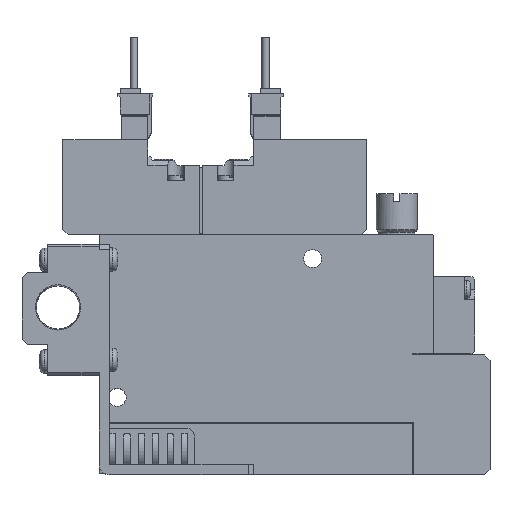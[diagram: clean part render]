
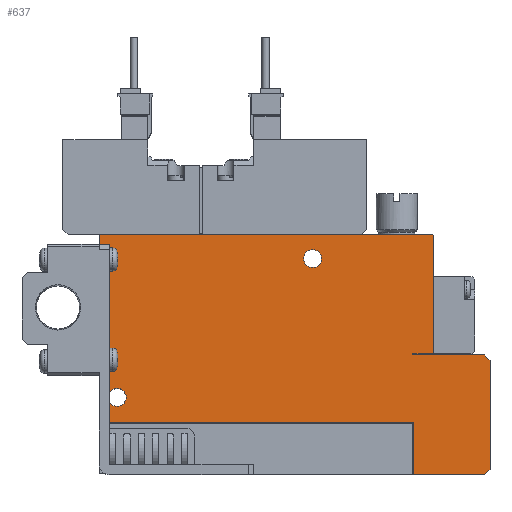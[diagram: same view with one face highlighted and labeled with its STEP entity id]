
A CAD part, top view. The second image highlights one B-rep face of the part: STEP entity #637.
In plain terms, the highlighted planar face has unit normal (0, 0, 1).
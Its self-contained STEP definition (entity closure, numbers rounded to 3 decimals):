
#637=ADVANCED_FACE('',(#1516,#1517,#1518),#1519,.F.);
#1516=FACE_OUTER_BOUND('',#2768,.T.);
#1517=FACE_BOUND('',#2769,.T.);
#1518=FACE_BOUND('',#2770,.T.);
#1519=PLANE('',#2771);
#2768=EDGE_LOOP('',(#5718,#5719,#5720,#5721,#5722,#5723,#5724,#5725,#5726,#5727,#5728,#5729,#5730,#5731));
#2769=EDGE_LOOP('',(#5732));
#2770=EDGE_LOOP('',(#5733));
#2771=AXIS2_PLACEMENT_3D('',#5734,#5735,#5736);
#5718=ORIENTED_EDGE('',*,*,#8769,.T.);
#5719=ORIENTED_EDGE('',*,*,#8770,.F.);
#5720=ORIENTED_EDGE('',*,*,#8771,.F.);
#5721=ORIENTED_EDGE('',*,*,#8683,.T.);
#5722=ORIENTED_EDGE('',*,*,#8772,.T.);
#5723=ORIENTED_EDGE('',*,*,#8773,.T.);
#5724=ORIENTED_EDGE('',*,*,#8774,.T.);
#5725=ORIENTED_EDGE('',*,*,#8775,.T.);
#5726=ORIENTED_EDGE('',*,*,#8776,.T.);
#5727=ORIENTED_EDGE('',*,*,#8758,.T.);
#5728=ORIENTED_EDGE('',*,*,#8777,.T.);
#5729=ORIENTED_EDGE('',*,*,#8778,.T.);
#5730=ORIENTED_EDGE('',*,*,#8779,.T.);
#5731=ORIENTED_EDGE('',*,*,#8780,.T.);
#5732=ORIENTED_EDGE('',*,*,#8781,.F.);
#5733=ORIENTED_EDGE('',*,*,#8782,.F.);
#5734=CARTESIAN_POINT('',(0.0,0.0,5.0));
#5735=DIRECTION('',(0.0,0.0,-1.0));
#5736=DIRECTION('',(0.0,-1.0,0.0));
#8683=EDGE_CURVE('',#10587,#10591,#10593,.T.);
#8758=EDGE_CURVE('',#10740,#10738,#10741,.T.);
#8769=EDGE_CURVE('',#10760,#10761,#10762,.T.);
#8770=EDGE_CURVE('',#10763,#10761,#10764,.T.);
#8771=EDGE_CURVE('',#10587,#10763,#10765,.T.);
#8772=EDGE_CURVE('',#10591,#10766,#10767,.T.);
#8773=EDGE_CURVE('',#10766,#10768,#10769,.T.);
#8774=EDGE_CURVE('',#10768,#10770,#10771,.T.);
#8775=EDGE_CURVE('',#10770,#10772,#10773,.T.);
#8776=EDGE_CURVE('',#10772,#10740,#10774,.T.);
#8777=EDGE_CURVE('',#10738,#10775,#10776,.T.);
#8778=EDGE_CURVE('',#10775,#10777,#10778,.T.);
#8779=EDGE_CURVE('',#10777,#10779,#10780,.T.);
#8780=EDGE_CURVE('',#10779,#10760,#10781,.T.);
#8781=EDGE_CURVE('',#10782,#10782,#10783,.T.);
#8782=EDGE_CURVE('',#10784,#10784,#10785,.T.);
#10587=VERTEX_POINT('',#13690);
#10591=VERTEX_POINT('',#13696);
#10593=LINE('',#13699,#13700);
#10738=VERTEX_POINT('',#13933);
#10740=VERTEX_POINT('',#13936);
#10741=LINE('',#13937,#13938);
#10760=VERTEX_POINT('',#13981);
#10761=VERTEX_POINT('',#13982);
#10762=LINE('',#13983,#13984);
#10763=VERTEX_POINT('',#13985);
#10764=LINE('',#13986,#13987);
#10765=LINE('',#13988,#13989);
#10766=VERTEX_POINT('',#13990);
#10767=LINE('',#13991,#13992);
#10768=VERTEX_POINT('',#13993);
#10769=LINE('',#13994,#13995);
#10770=VERTEX_POINT('',#13996);
#10771=LINE('',#13997,#13998);
#10772=VERTEX_POINT('',#13999);
#10773=LINE('',#14000,#14001);
#10774=LINE('',#14002,#14003);
#10775=VERTEX_POINT('',#14004);
#10776=LINE('',#14005,#14006);
#10777=VERTEX_POINT('',#14007);
#10778=LINE('',#14008,#14009);
#10779=VERTEX_POINT('',#14010);
#10780=LINE('',#14011,#14012);
#10781=LINE('',#14013,#14014);
#10782=VERTEX_POINT('',#14015);
#10783=CIRCLE('',#14016,1.75);
#10784=VERTEX_POINT('',#14017);
#10785=CIRCLE('',#14018,1.75);
#13690=CARTESIAN_POINT('',(61.1,0.0,5.0));
#13696=CARTESIAN_POINT('',(75.0,0.0,5.0));
#13699=CARTESIAN_POINT('',(0.0,0.0,5.0));
#13700=VECTOR('',#17048,1.0);
#13933=CARTESIAN_POINT('',(65.0,23.5,5.0));
#13936=CARTESIAN_POINT('',(61.0,23.5,5.0));
#13937=CARTESIAN_POINT('',(61.0,23.5,5.0));
#13938=VECTOR('',#17157,1.0);
#13981=CARTESIAN_POINT('',(0.0,46.4,5.0));
#13982=CARTESIAN_POINT('',(0.0,10.1,5.0));
#13983=CARTESIAN_POINT('',(0.0,46.4,5.0));
#13984=VECTOR('',#17172,1.0);
#13985=CARTESIAN_POINT('',(61.1,10.1,5.0));
#13986=CARTESIAN_POINT('',(61.1,10.1,5.0));
#13987=VECTOR('',#17173,1.0);
#13988=CARTESIAN_POINT('',(61.1,0.0,5.0));
#13989=VECTOR('',#17174,1.0);
#13990=CARTESIAN_POINT('',(76.0,1.0,5.0));
#13991=CARTESIAN_POINT('',(75.0,0.0,5.0));
#13992=VECTOR('',#17175,1.0);
#13993=CARTESIAN_POINT('',(76.0,22.25,5.0));
#13994=CARTESIAN_POINT('',(76.0,1.0,5.0));
#13995=VECTOR('',#17176,1.0);
#13996=CARTESIAN_POINT('',(75.0,23.25,5.0));
#13997=CARTESIAN_POINT('',(76.0,22.25,5.0));
#13998=VECTOR('',#17177,1.0);
#13999=CARTESIAN_POINT('',(61.0,23.25,5.0));
#14000=CARTESIAN_POINT('',(75.0,23.25,5.0));
#14001=VECTOR('',#17178,1.0);
#14002=CARTESIAN_POINT('',(61.0,23.25,5.0));
#14003=VECTOR('',#17179,1.0);
#14004=CARTESIAN_POINT('',(65.0,46.4,5.0));
#14005=CARTESIAN_POINT('',(65.0,23.5,5.0));
#14006=VECTOR('',#17180,1.0);
#14007=CARTESIAN_POINT('',(64.8,46.6,5.0));
#14008=CARTESIAN_POINT('',(65.0,46.4,5.0));
#14009=VECTOR('',#17181,1.0);
#14010=CARTESIAN_POINT('',(0.2,46.6,5.0));
#14011=CARTESIAN_POINT('',(64.8,46.6,5.0));
#14012=VECTOR('',#17182,1.0);
#14013=CARTESIAN_POINT('',(0.2,46.6,5.0));
#14014=VECTOR('',#17183,1.0);
#14015=CARTESIAN_POINT('',(5.25,15.0,5.0));
#14016=AXIS2_PLACEMENT_3D('',#17184,#17185,#17186);
#14017=CARTESIAN_POINT('',(43.25,42.0,5.0));
#14018=AXIS2_PLACEMENT_3D('',#17187,#17188,#17189);
#17048=DIRECTION('',(1.0,0.0,0.0));
#17157=DIRECTION('',(1.0,0.,0.0));
#17172=DIRECTION('',(0.0,-1.0,0.0));
#17173=DIRECTION('',(-1.0,0.0,0.0));
#17174=DIRECTION('',(0.0,1.0,0.0));
#17175=DIRECTION('',(0.707,0.707,0.0));
#17176=DIRECTION('',(0.0,1.0,0.0));
#17177=DIRECTION('',(-0.707,0.707,0.0));
#17178=DIRECTION('',(-1.0,0.0,0.0));
#17179=DIRECTION('',(0.0,1.0,0.0));
#17180=DIRECTION('',(0.0,1.0,0.0));
#17181=DIRECTION('',(-0.707,0.707,0.0));
#17182=DIRECTION('',(-1.0,0.0,0.0));
#17183=DIRECTION('',(-0.707,-0.707,0.0));
#17184=CARTESIAN_POINT('',(3.5,15.0,5.0));
#17185=DIRECTION('',(0.0,0.0,1.0));
#17186=DIRECTION('',(1.0,0.0,0.0));
#17187=CARTESIAN_POINT('',(41.5,42.0,5.0));
#17188=DIRECTION('',(0.0,0.0,1.0));
#17189=DIRECTION('',(1.0,0.0,0.0));
